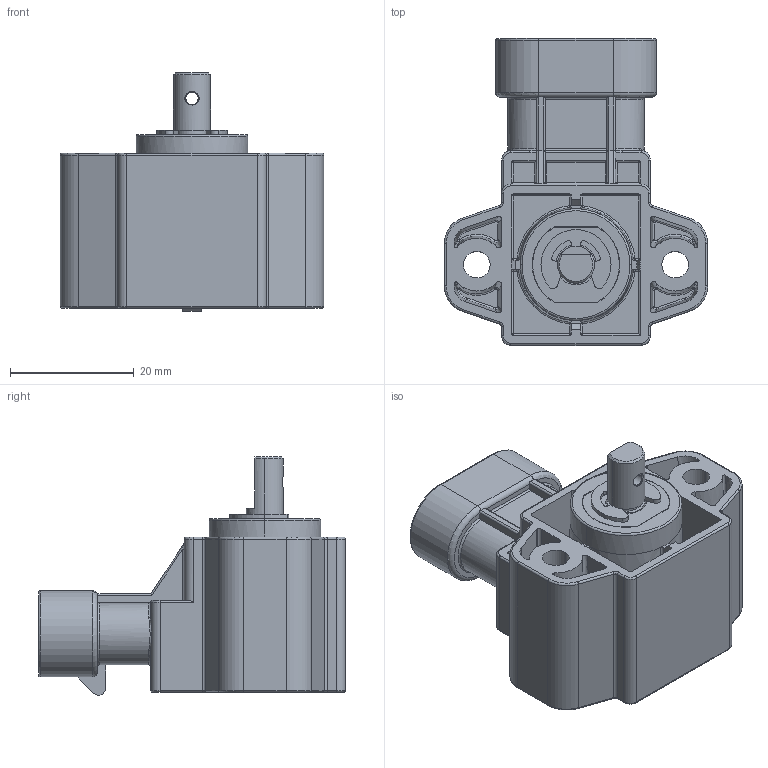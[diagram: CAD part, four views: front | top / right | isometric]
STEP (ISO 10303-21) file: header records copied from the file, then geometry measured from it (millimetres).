
FILE_DESCRIPTION (( 'STEP AP203' ), '1' );
FILE_NAME ('GR3PA S3H1MS xxx xxxx X0.STEP', '2024-12-19T14:48:19', ( '' ), ( '' ), 'SwSTEP 2.0', 'SolidWorks 2024', '' );
FILE_SCHEMA (( 'CONFIG_CONTROL_DESIGN' ));
Length unit declared in the file: millimetre
Products named in the file (1): GR3PA S3H1MS xxx xxxx X0
Bounding box: 42.5 x 49.5 x 38.47 mm (x, y, z)
Volume: 22813.8 mm3; surface area: 13070.9 mm2
Topology: 7 solids, 7 shells, 643 faces, 1535 edges, 912 vertices
Faces by surface type: cylinder 217, plane 208, bspline 83, torus 66, sphere 39, cone 30
Entity records: 21866 total; most frequent: CARTESIAN_POINT 7498, ORIENTED_EDGE 3026, DIRECTION 2955, EDGE_CURVE 1513, AXIS2_PLACEMENT_3D 1134, VERTEX_POINT 912, VECTOR 687, LINE 687
